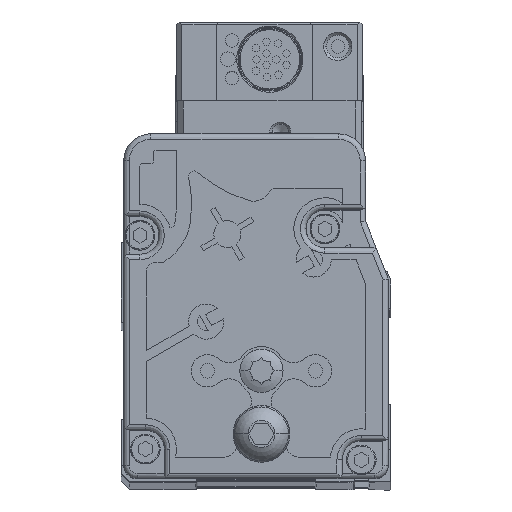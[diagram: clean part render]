
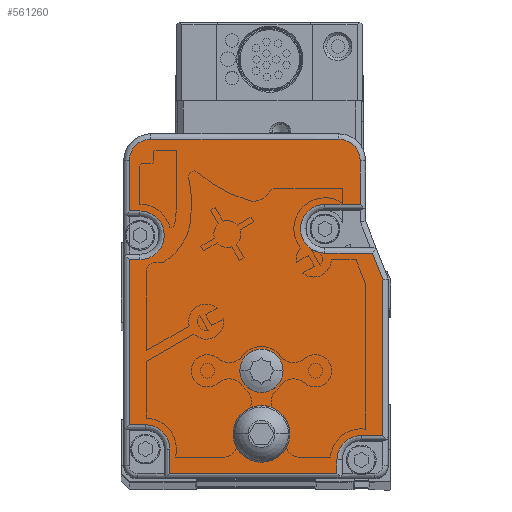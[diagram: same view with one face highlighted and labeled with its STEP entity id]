
A CAD part, top view. The second image highlights one B-rep face of the part: STEP entity #561260.
In plain terms, the highlighted planar face has unit normal (0, 0, 1).
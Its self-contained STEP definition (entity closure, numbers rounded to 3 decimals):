
#493770=CARTESIAN_POINT('',(-40.059,22.124,
1572.39));
#493780=VERTEX_POINT('',#493770);
#493810=CARTESIAN_POINT('',(-44.059,22.124,
1572.39));
#493820=DIRECTION('',(0.,0.,1.));
#493830=DIRECTION('',(1.,0.,0.));
#493840=AXIS2_PLACEMENT_3D('',#493810,#493820,#493830);
#493850=CIRCLE('',#493840,4.);
#493860=CARTESIAN_POINT('',(-48.059,22.124,
1572.39));
#493870=VERTEX_POINT('',#493860);
#493880=EDGE_CURVE('',#493870,#493780,#493850,.T.);
#504530=CARTESIAN_POINT('',(-39.056,10.421,
1572.39));
#504540=VERTEX_POINT('',#504530);
#504700=CARTESIAN_POINT('',(-49.056,10.421,
1572.39));
#504710=VERTEX_POINT('',#504700);
#504740=CARTESIAN_POINT('',(-44.056,10.421,
1572.39));
#504750=DIRECTION('',(0.,0.,1.));
#504760=DIRECTION('',(1.,0.,0.));
#504770=AXIS2_PLACEMENT_3D('',#504740,#504750,#504760);
#504780=CIRCLE('',#504770,5.);
#504790=EDGE_CURVE('',#504540,#504710,#504780,.T.);
#528410=CARTESIAN_POINT('',(-66.559,51.727,
1572.39));
#528420=DIRECTION('',(-1.,0.,0.));
#528430=VECTOR('',#528420,1.);
#528440=LINE('',#528410,#528430);
#528450=CARTESIAN_POINT('',(-66.559,51.727,
1572.39));
#528460=VERTEX_POINT('',#528450);
#528470=CARTESIAN_POINT('',(-68.559,51.727,
1572.39));
#528480=VERTEX_POINT('',#528470);
#528490=EDGE_CURVE('',#528460,#528480,#528440,.T.);
#529690=CARTESIAN_POINT('',(-66.559,47.227,
1572.39));
#529700=DIRECTION('',(0.,0.,1.));
#529710=DIRECTION('',(1.,0.,0.));
#529720=AXIS2_PLACEMENT_3D('',#529690,#529700,#529710);
#529730=CIRCLE('',#529720,4.5);
#529740=CARTESIAN_POINT('',(-66.559,42.727,
1572.39));
#529750=VERTEX_POINT('',#529740);
#529760=EDGE_CURVE('',#529750,#528460,#529730,.T.);
#531780=CARTESIAN_POINT('',(-30.059,3.124,
1572.39));
#531790=DIRECTION('',(-1.,0.,0.));
#531800=VECTOR('',#531790,1.);
#531810=LINE('',#531780,#531800);
#531820=CARTESIAN_POINT('',(-30.059,3.124,
1572.39));
#531830=VERTEX_POINT('',#531820);
#531840=CARTESIAN_POINT('',(-61.059,3.124,
1572.39));
#531850=VERTEX_POINT('',#531840);
#531860=EDGE_CURVE('',#531830,#531850,#531810,.T.);
#532350=CARTESIAN_POINT('',(-30.059,5.624,
1572.39));
#532360=DIRECTION('',(0.,-1.,0.));
#532370=VECTOR('',#532360,1.);
#532380=LINE('',#532350,#532370);
#532390=CARTESIAN_POINT('',(-30.059,5.624,
1572.39));
#532400=VERTEX_POINT('',#532390);
#532410=EDGE_CURVE('',#532400,#531830,#532380,.T.);
#533310=CARTESIAN_POINT('',(-32.309,48.424,
1572.39));
#533320=DIRECTION('',(0.,0.,1.));
#533330=DIRECTION('',(1.,0.,0.));
#533340=AXIS2_PLACEMENT_3D('',#533310,#533320,#533330);
#533350=CIRCLE('',#533340,4.5);
#533360=CARTESIAN_POINT('',(-32.309,52.924,
1572.39));
#533370=VERTEX_POINT('',#533360);
#533380=CARTESIAN_POINT('',(-32.309,43.924,
1572.39));
#533390=VERTEX_POINT('',#533380);
#533400=EDGE_CURVE('',#533370,#533390,#533350,.T.);
#533700=CARTESIAN_POINT('',(-32.309,43.924,
1572.39));
#533710=DIRECTION('',(1.,0.,0.));
#533720=VECTOR('',#533710,1.);
#533730=LINE('',#533700,#533720);
#533740=CARTESIAN_POINT('',(-23.499,43.924,
1572.39));
#533750=VERTEX_POINT('',#533740);
#533760=EDGE_CURVE('',#533390,#533750,#533730,.T.);
#535010=CARTESIAN_POINT('',(-23.499,43.924,
1572.39));
#535020=DIRECTION('',(0.362,-0.932,0.));
#535030=VECTOR('',#535020,1.);
#535040=LINE('',#535010,#535030);
#535050=CARTESIAN_POINT('',(-21.559,38.937,
1572.39));
#535060=VERTEX_POINT('',#535050);
#535070=EDGE_CURVE('',#533750,#535060,#535040,.T.);
#536440=CARTESIAN_POINT('',(-21.559,38.937,
1572.39));
#536450=DIRECTION('',(0.,-1.,0.));
#536460=VECTOR('',#536450,1.);
#536470=LINE('',#536440,#536460);
#536480=CARTESIAN_POINT('',(-21.559,10.124,
1572.39));
#536490=VERTEX_POINT('',#536480);
#536500=EDGE_CURVE('',#535060,#536490,#536470,.T.);
#537700=CARTESIAN_POINT('',(-21.559,10.124,
1572.39));
#537710=DIRECTION('',(-1.,0.,0.));
#537720=VECTOR('',#537710,1.);
#537730=LINE('',#537700,#537720);
#537740=CARTESIAN_POINT('',(-25.559,10.124,
1572.39));
#537750=VERTEX_POINT('',#537740);
#537760=EDGE_CURVE('',#536490,#537750,#537730,.T.);
#538080=CARTESIAN_POINT('',(-25.559,5.624,
1572.39));
#538090=DIRECTION('',(0.,0.,1.));
#538100=DIRECTION('',(1.,0.,0.));
#538110=AXIS2_PLACEMENT_3D('',#538080,#538090,#538100);
#538120=CIRCLE('',#538110,4.5);
#538130=EDGE_CURVE('',#537750,#532400,#538120,.T.);
#545340=CARTESIAN_POINT('',(-61.059,3.124,
1572.39));
#545350=DIRECTION('',(0.,1.,0.));
#545360=VECTOR('',#545350,1.);
#545370=LINE('',#545340,#545360);
#545380=CARTESIAN_POINT('',(-61.059,7.624,
1572.39));
#545390=VERTEX_POINT('',#545380);
#545400=EDGE_CURVE('',#531850,#545390,#545370,.T.);
#545660=CARTESIAN_POINT('',(-65.559,7.624,
1572.39));
#545670=DIRECTION('',(0.,0.,1.));
#545680=DIRECTION('',(1.,0.,0.));
#545690=AXIS2_PLACEMENT_3D('',#545660,#545670,#545680);
#545700=CIRCLE('',#545690,4.5);
#545710=CARTESIAN_POINT('',(-65.559,12.124,
1572.39));
#545720=VERTEX_POINT('',#545710);
#545730=EDGE_CURVE('',#545390,#545720,#545700,.T.);
#545980=CARTESIAN_POINT('',(-65.559,12.124,
1572.39));
#545990=DIRECTION('',(-1.,0.,0.));
#546000=VECTOR('',#545990,1.);
#546010=LINE('',#545980,#546000);
#546020=CARTESIAN_POINT('',(-68.559,12.124,
1572.39));
#546030=VERTEX_POINT('',#546020);
#546040=EDGE_CURVE('',#545720,#546030,#546010,.T.);
#549780=CARTESIAN_POINT('',(-68.559,12.124,
1572.39));
#549790=DIRECTION('',(0.,1.,0.));
#549800=VECTOR('',#549790,1.);
#549810=LINE('',#549780,#549800);
#549820=CARTESIAN_POINT('',(-68.559,42.727,
1572.39));
#549830=VERTEX_POINT('',#549820);
#549840=EDGE_CURVE('',#546030,#549830,#549810,.T.);
#551060=CARTESIAN_POINT('',(-68.559,42.727,
1572.39));
#551070=DIRECTION('',(1.,0.,0.));
#551080=VECTOR('',#551070,1.);
#551090=LINE('',#551060,#551080);
#551100=EDGE_CURVE('',#549830,#529750,#551090,.T.);
#552330=CARTESIAN_POINT('',(-68.559,51.727,
1572.39));
#552340=DIRECTION('',(0.,1.,0.));
#552350=VECTOR('',#552340,1.);
#552360=LINE('',#552330,#552350);
#552370=CARTESIAN_POINT('',(-68.559,61.024,
1572.39));
#552380=VERTEX_POINT('',#552370);
#552390=EDGE_CURVE('',#528480,#552380,#552360,.T.);
#552720=CARTESIAN_POINT('',(-64.559,61.024,
1572.39));
#552730=DIRECTION('',(0.,0.,-1.));
#552740=DIRECTION('',(-1.,0.,0.));
#552750=AXIS2_PLACEMENT_3D('',#552720,#552730,#552740);
#552760=CIRCLE('',#552750,4.);
#552770=CARTESIAN_POINT('',(-64.559,65.024,
1572.39));
#552780=VERTEX_POINT('',#552770);
#552790=EDGE_CURVE('',#552380,#552780,#552760,.T.);
#553110=CARTESIAN_POINT('',(-64.559,65.024,
1572.39));
#553120=DIRECTION('',(1.,0.,0.));
#553130=VECTOR('',#553120,1.);
#553140=LINE('',#553110,#553130);
#553150=CARTESIAN_POINT('',(-29.759,65.024,
1572.39));
#553160=VERTEX_POINT('',#553150);
#553170=EDGE_CURVE('',#552780,#553160,#553140,.T.);
#553610=CARTESIAN_POINT('',(-25.759,61.024,
1572.39));
#553620=VERTEX_POINT('',#553610);
#553650=CARTESIAN_POINT('',(-29.759,61.024,
1572.39));
#553660=DIRECTION('',(0.,0.,-1.));
#553670=DIRECTION('',(-1.,0.,0.));
#553680=AXIS2_PLACEMENT_3D('',#553650,#553660,#553670);
#553690=CIRCLE('',#553680,4.);
#553700=EDGE_CURVE('',#553160,#553620,#553690,.T.);
#553880=CARTESIAN_POINT('',(-25.759,61.024,
1572.39));
#553890=DIRECTION('',(0.,-1.,0.));
#553900=VECTOR('',#553890,1.);
#553910=LINE('',#553880,#553900);
#553920=CARTESIAN_POINT('',(-25.759,52.924,
1572.39));
#553930=VERTEX_POINT('',#553920);
#553940=EDGE_CURVE('',#553620,#553930,#553910,.T.);
#554290=CARTESIAN_POINT('',(-25.759,52.924,
1572.39));
#554300=DIRECTION('',(-1.,0.,0.));
#554310=VECTOR('',#554300,1.);
#554320=LINE('',#554290,#554310);
#554330=EDGE_CURVE('',#553930,#533370,#554320,.T.);
#560880=CARTESIAN_POINT('',(-45.059,34.074,
1572.39));
#560890=DIRECTION('',(0.,0.,1.));
#560900=DIRECTION('',(1.,0.,0.));
#560910=AXIS2_PLACEMENT_3D('',#560880,#560890,#560900);
#560920=PLANE('',#560910);
#560930=ORIENTED_EDGE('',*,*,#545400,.F.);
#560940=ORIENTED_EDGE('',*,*,#545730,.F.);
#560950=ORIENTED_EDGE('',*,*,#546040,.F.);
#560960=ORIENTED_EDGE('',*,*,#549840,.F.);
#560970=ORIENTED_EDGE('',*,*,#551100,.F.);
#560980=ORIENTED_EDGE('',*,*,#529760,.F.);
#560990=ORIENTED_EDGE('',*,*,#528490,.F.);
#561000=ORIENTED_EDGE('',*,*,#552390,.F.);
#561010=ORIENTED_EDGE('',*,*,#552790,.F.);
#561020=ORIENTED_EDGE('',*,*,#553170,.F.);
#561030=ORIENTED_EDGE('',*,*,#553700,.F.);
#561040=ORIENTED_EDGE('',*,*,#553940,.F.);
#561050=ORIENTED_EDGE('',*,*,#554330,.F.);
#561060=ORIENTED_EDGE('',*,*,#533400,.F.);
#561070=ORIENTED_EDGE('',*,*,#533760,.F.);
#561080=ORIENTED_EDGE('',*,*,#535070,.F.);
#561090=ORIENTED_EDGE('',*,*,#536500,.F.);
#561100=ORIENTED_EDGE('',*,*,#537760,.F.);
#561110=ORIENTED_EDGE('',*,*,#538130,.F.);
#561120=ORIENTED_EDGE('',*,*,#532410,.F.);
#561130=ORIENTED_EDGE('',*,*,#531860,.F.);
#561140=EDGE_LOOP('',(#561130,#561120,#561110,#561100,#561090,#561080,
#561070,#561060,#561050,#561040,#561030,#561020,#561010,#561000,#560990,
#560980,#560970,#560960,#560950,#560940,#560930));
#561150=FACE_OUTER_BOUND('',#561140,.T.);
#561160=EDGE_CURVE('',#504710,#504540,#504780,.T.);
#561170=ORIENTED_EDGE('',*,*,#561160,.F.);
#561180=ORIENTED_EDGE('',*,*,#504790,.F.);
#561190=EDGE_LOOP('',(#561180,#561170));
#561200=FACE_BOUND('',#561190,.T.);
#561210=EDGE_CURVE('',#493780,#493870,#493850,.T.);
#561220=ORIENTED_EDGE('',*,*,#561210,.F.);
#561230=ORIENTED_EDGE('',*,*,#493880,.F.);
#561240=EDGE_LOOP('',(#561230,#561220));
#561250=FACE_BOUND('',#561240,.T.);
#561260=ADVANCED_FACE('',(#561150,#561200,#561250),#560920,.T.);
